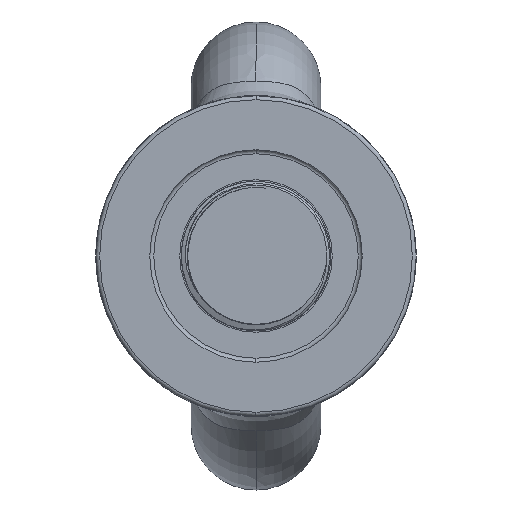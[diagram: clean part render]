
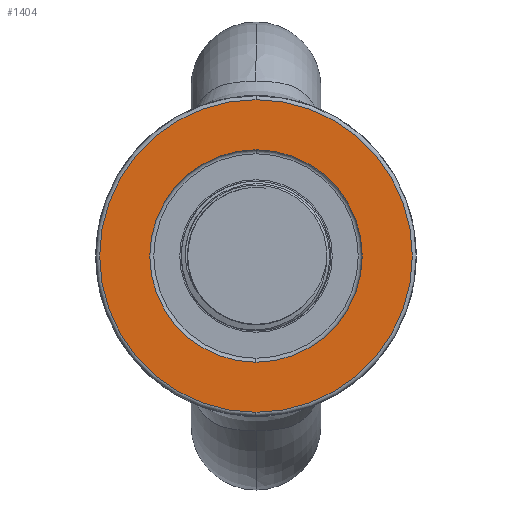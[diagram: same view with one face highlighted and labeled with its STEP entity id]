
A CAD part, left-side view. The second image highlights one B-rep face of the part: STEP entity #1404.
In plain terms, the highlighted planar face has unit normal (-1, 0, 0).
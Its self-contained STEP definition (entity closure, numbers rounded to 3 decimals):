
#159 = CIRCLE ( 'NONE', #10685, 79.5 ) ;
#160 = CIRCLE ( 'NONE', #10688, 54. ) ;
#768 = EDGE_CURVE ( 'NONE', #1797, #1372, #1136, .T. ) ;
#771 = EDGE_CURVE ( 'NONE', #1344, #18390, #1137, .T. ) ;
#946 = ORIENTED_EDGE ( 'NONE', *, *, #771, .T. ) ;
#959 = ORIENTED_EDGE ( 'NONE', *, *, #10581, .T. ) ;
#963 = ORIENTED_EDGE ( 'NONE', *, *, #768, .F. ) ;
#967 = ORIENTED_EDGE ( 'NONE', *, *, #10587, .F. ) ;
#996 = EDGE_LOOP ( 'NONE', ( #967, #963 ) ) ;
#1005 = EDGE_LOOP ( 'NONE', ( #946, #959 ) ) ;
#1136 = CIRCLE ( 'NONE', #10626, 54. ) ;
#1137 = CIRCLE ( 'NONE', #10629, 79.5 ) ;
#1282 = FACE_OUTER_BOUND ( 'NONE', #1005, .T. ) ;
#1286 = FACE_BOUND ( 'NONE', #996, .T. ) ;
#1344 = VERTEX_POINT ( 'NONE', #15369 ) ;
#1372 = VERTEX_POINT ( 'NONE', #15395 ) ;
#1404 = ADVANCED_FACE ( 'NONE', ( #1286, #1282 ), #16342, .F. ) ;
#1797 = VERTEX_POINT ( 'NONE', #11125 ) ;
#10581 = EDGE_CURVE ( 'NONE', #18390, #1344, #159, .T. ) ;
#10587 = EDGE_CURVE ( 'NONE', #1372, #1797, #160, .T. ) ;
#10626 = AXIS2_PLACEMENT_3D ( 'NONE', #11443, #11445, #11447 ) ;
#10629 = AXIS2_PLACEMENT_3D ( 'NONE', #11468, #11470, #11472 ) ;
#10662 = AXIS2_PLACEMENT_3D ( 'NONE', #16312, #16344, #16345 ) ;
#10685 = AXIS2_PLACEMENT_3D ( 'NONE', #11531, #11533, #11535 ) ;
#10688 = AXIS2_PLACEMENT_3D ( 'NONE', #11651, #11653, #11655 ) ;
#11125 = CARTESIAN_POINT ( 'NONE',  ( 0., 0., -54. ) ) ;
#11443 = CARTESIAN_POINT ( 'NONE',  ( 0., 0., 0. ) ) ;
#11445 = DIRECTION ( 'NONE',  ( -1., 0., 0. ) ) ;
#11447 = DIRECTION ( 'NONE',  ( 0., 0., 1. ) ) ;
#11468 = CARTESIAN_POINT ( 'NONE',  ( 0., 0., 0. ) ) ;
#11470 = DIRECTION ( 'NONE',  ( -1., 0., 0. ) ) ;
#11472 = DIRECTION ( 'NONE',  ( 0., 0., 1. ) ) ;
#11531 = CARTESIAN_POINT ( 'NONE',  ( 0., 0., 0. ) ) ;
#11533 = DIRECTION ( 'NONE',  ( -1., 0., 0. ) ) ;
#11535 = DIRECTION ( 'NONE',  ( 0., 0., 1. ) ) ;
#11651 = CARTESIAN_POINT ( 'NONE',  ( 0., 0., 0. ) ) ;
#11653 = DIRECTION ( 'NONE',  ( -1., 0., 0. ) ) ;
#11655 = DIRECTION ( 'NONE',  ( 0., 0., 1. ) ) ;
#15369 = CARTESIAN_POINT ( 'NONE',  ( 0., 0., 79.5 ) ) ;
#15395 = CARTESIAN_POINT ( 'NONE',  ( 0., 0., 54. ) ) ;
#16312 = CARTESIAN_POINT ( 'NONE',  ( 0., 0., -79.5 ) ) ;
#16342 = PLANE ( 'NONE',  #10662 ) ;
#16344 = DIRECTION ( 'NONE',  ( 1., 0., 0. ) ) ;
#16345 = DIRECTION ( 'NONE',  ( 0., 0., -1. ) ) ;
#18390 = VERTEX_POINT ( 'NONE', #18794 ) ;
#18794 = CARTESIAN_POINT ( 'NONE',  ( 0., 0., -79.5 ) ) ;
